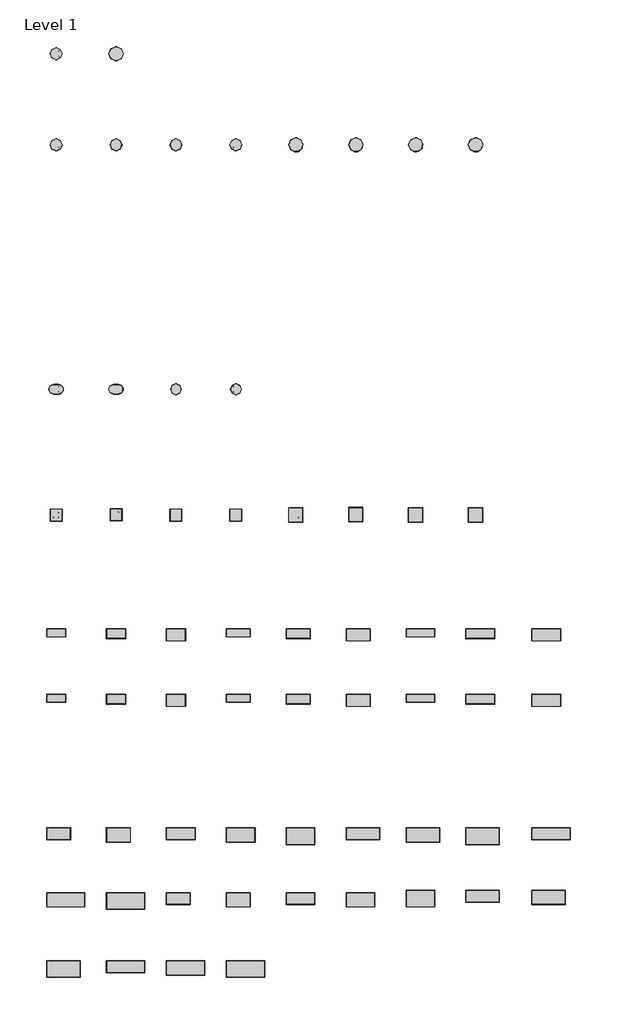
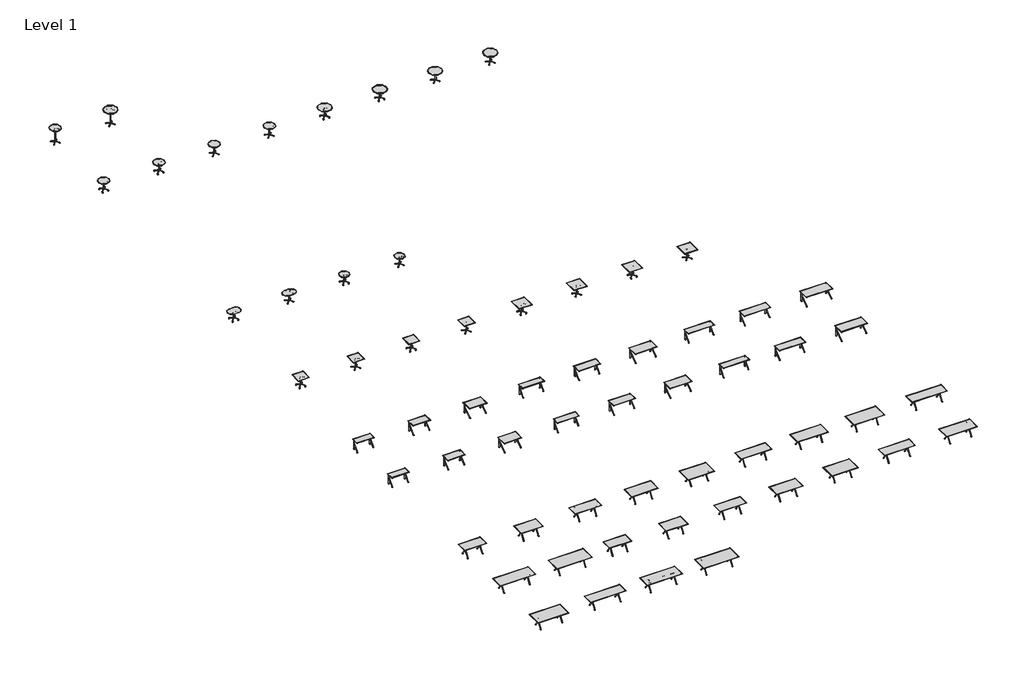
# One storey, incomplete: 62 furniture elements.
"""IFC4 building model written with IfcOpenShell, lengths in millimetres."""

from ifc_helpers import new_model, si_unit, origin, place, context, project, spatial, transform, mapped, element, save
from components import furniture_6d840f3d, furniture_4b4476a1, furniture_c636132f, furniture_0d1399a9, furniture_e3f77849, furniture_43bcfa1b, furniture_23439573, furniture_00ebde2c, furniture_e8179fcb, furniture_a29cdf1c, furniture_600607fc, furniture_6506d081, furniture_60187970, furniture_3e3b4661, furniture_688fecdd, furniture_44e23b2c, furniture_f732efc8, furniture_f3c16c70, furniture_112e565e, furniture_2d3e260a, furniture_408d4948, furniture_6a61a7a8, furniture_c7f1a0a6, furniture_7c50bf01, furniture_cbac11a1, furniture_f50cbc5f, furniture_f6d11dd5, furniture_b1c274ee, furniture_0b930614, furniture_6fb40dd8, furniture_1427e825, furniture_9557caa1, furniture_664d09f2, furniture_9438e511, furniture_6361e24f, furniture_384ca9b4, furniture_72fba591, furniture_e7cac80a, furniture_fa86c628, furniture_82742941, furniture_30dia_b329b6b0, furniture_30dia_caster_6a6dbd40, furniture_30dia_caster_169a5ec4, furniture_30dia_flip_top_caster_9c263363, furniture_30dia_flip_top_glide_9120c742, furniture_30dia_glide_76cbbe3d, furniture_30dia_glide_d7e59fd5, furniture_36dia_0370dd3c, furniture_36dia_caster_071b1864, furniture_36dia_flip_top_caster_c69cecfe, furniture_36dia_flip_top_glide_c7ab700b, furniture_36dia_glide_d5f281bf, round_caster_d703c492, round_glide_2c95bece

model = new_model("IFC4")

# Units and contexts
model_context = context("Model", 3, world=origin())
ifc_project = project(units=[si_unit("LENGTHUNIT", "METRE", prefix="MILLI")], contexts=[model_context])

# Site, building, storey
site = spatial("IfcSite", under=ifc_project)
building = spatial("IfcBuilding", under=site)
storey = spatial("IfcBuildingStorey", under=building, Name="Level 1", Elevation=0.0)

# Furniture
placement = place(None, origin())
furniture_shape = furniture_6d840f3d(model_context)
element("IfcFurniture", 1, ObjectType="Coalesse_AM_Table_Conference_Ballet_Rectangular_XBase : Folding - 72L x 30W", at=placement, inside=storey, context=model_context, shape_type="MappedRepresentation", body=[
    mapped(furniture_shape, transform((780869.7766429, -39696.6858647, 0.0), x_axis=(1.0, 0.0, 0.0), y_axis=(0.0, 1.0, 0.0), z_axis=(0.0, 0.0, 1.0))),
])
element("IfcFurniture", 2, ObjectType="Coalesse_AM_Table_Conference_Ballet_Rectangular_XBase : Non Folding - 72L x 30W", at=placement, inside=storey, context=model_context, shape_type="MappedRepresentation", body=[
    mapped(furniture_shape, transform((788489.7766429, -43811.4858647, 0.0), x_axis=(1.0, 0.0, 0.0), y_axis=(0.0, 1.0, 0.0), z_axis=(0.0, 0.0, 1.0))),
])
furniture_2_shape = furniture_4b4476a1(model_context)
element("IfcFurniture", 3, ObjectType="Coalesse_AM_Table_Conference_Ballet_Rectangular_XBase : Folding - 60L x 30W", at=placement, inside=storey, context=model_context, shape_type="MappedRepresentation", body=[
    mapped(furniture_2_shape, transform((773097.3766429, -39696.6858647, 0.0), x_axis=(1.0, 0.0, 0.0), y_axis=(0.0, 1.0, 0.0), z_axis=(0.0, 0.0, 1.0))),
])
furniture_3_shape = furniture_c636132f(model_context)
element("IfcFurniture", 4, ObjectType="Coalesse_AM_Table_Conference_Ballet_Rectangular_XBase : Folding - 84L x 30W", at=placement, inside=storey, context=model_context, shape_type="MappedRepresentation", body=[
    mapped(furniture_3_shape, transform((792452.1766429, -39696.6858647, 0.0), x_axis=(1.0, 0.0, 0.0), y_axis=(0.0, 1.0, 0.0), z_axis=(0.0, 0.0, 1.0))),
])
furniture_4_shape = furniture_0d1399a9(model_context)
element("IfcFurniture", 5, ObjectType="Coalesse_AM_Table_Conference_Ballet_Rectangular_XBase : Folding - 96L x 30W", at=placement, inside=storey, context=model_context, shape_type="MappedRepresentation", body=[
    mapped(furniture_4_shape, transform((804413.5754455, -39696.6858647, 0.0), x_axis=(1.0, 0.0, 0.0), y_axis=(0.0, 1.0, 0.0), z_axis=(0.0, 0.0, 1.0))),
])
element("IfcFurniture", 6, ObjectType="Coalesse_AM_Table_Conference_Ballet_Rectangular_XBase : Non Folding - 60L x 30W", at=placement, inside=storey, context=model_context, shape_type="MappedRepresentation", body=[
    mapped(furniture_2_shape, transform((780717.3766429, -43811.4858647, 0.0), x_axis=(1.0, 0.0, 0.0), y_axis=(0.0, 1.0, 0.0), z_axis=(0.0, 0.0, 1.0))),
])
element("IfcFurniture", 7, ObjectType="Coalesse_AM_Table_Conference_Ballet_Rectangular_XBase : Non Folding - 84L x 30W", at=placement, inside=storey, context=model_context, shape_type="MappedRepresentation", body=[
    mapped(furniture_3_shape, transform((800072.1766429, -43659.0858647, 0.0), x_axis=(1.0, 0.0, 0.0), y_axis=(0.0, 1.0, 0.0), z_axis=(0.0, 0.0, 1.0))),
])
element("IfcFurniture", 8, ObjectType="Coalesse_AM_Table_Conference_Ballet_Rectangular_XBase : Non Folding - 96L x 30W", at=placement, inside=storey, context=model_context, shape_type="MappedRepresentation", body=[
    mapped(furniture_4_shape, transform((777364.5766429, -48144.1119827, 0.0), x_axis=(1.0, 0.0, 0.0), y_axis=(0.0, 1.0, 0.0), z_axis=(0.0, 0.0, 1.0))),
])
furniture_5_shape = furniture_e3f77849(model_context)
element("IfcFurniture", 9, ObjectType="Coalesse_AM_Table_Conference_Ballet_Rectangular_XBase : Folding - 60L x 36W", at=placement, inside=storey, context=model_context, shape_type="MappedRepresentation", body=[
    mapped(furniture_5_shape, transform((776907.3766429, -39772.8858647, 0.0), x_axis=(1.0, 0.0, 0.0), y_axis=(0.0, 1.0, 0.0), z_axis=(0.0, 0.0, 1.0))),
])
furniture_6_shape = furniture_43bcfa1b(model_context)
element("IfcFurniture", 10, ObjectType="Coalesse_AM_Table_Conference_Ballet_Rectangular_XBase : Folding - 72L x 36W", at=placement, inside=storey, context=model_context, shape_type="MappedRepresentation", body=[
    mapped(furniture_6_shape, transform((784679.7766429, -39772.8858647, 0.0), x_axis=(1.0, 0.0, 0.0), y_axis=(0.0, 1.0, 0.0), z_axis=(0.0, 0.0, 1.0))),
])
furniture_7_shape = furniture_23439573(model_context)
element("IfcFurniture", 11, ObjectType="Coalesse_AM_Table_Conference_Ballet_Rectangular_XBase : Folding - 84L x 36W", at=placement, inside=storey, context=model_context, shape_type="MappedRepresentation", body=[
    mapped(furniture_7_shape, transform((796262.1766429, -39772.8858647, 0.0), x_axis=(1.0, 0.0, 0.0), y_axis=(0.0, 1.0, 0.0), z_axis=(0.0, 0.0, 1.0))),
])
furniture_8_shape = furniture_00ebde2c(model_context)
element("IfcFurniture", 12, ObjectType="Coalesse_AM_Table_Conference_Ballet_Rectangular_XBase : Folding - 96L x 36W", at=placement, inside=storey, context=model_context, shape_type="MappedRepresentation", body=[
    mapped(furniture_8_shape, transform((773554.5766429, -43887.6858647, 0.0), x_axis=(1.0, 0.0, 0.0), y_axis=(0.0, 1.0, 0.0), z_axis=(0.0, 0.0, 1.0))),
])
element("IfcFurniture", 13, ObjectType="Coalesse_AM_Table_Conference_Ballet_Rectangular_XBase : Non Folding - 60L x 36W", at=placement, inside=storey, context=model_context, shape_type="MappedRepresentation", body=[
    mapped(furniture_5_shape, transform((784527.3766429, -43887.6858647, 0.0), x_axis=(1.0, 0.0, 0.0), y_axis=(0.0, 1.0, 0.0), z_axis=(0.0, 0.0, 1.0))),
])
element("IfcFurniture", 14, ObjectType="Coalesse_AM_Table_Conference_Ballet_Rectangular_XBase : Non Folding - 72L x 36W", at=placement, inside=storey, context=model_context, shape_type="MappedRepresentation", body=[
    mapped(furniture_6_shape, transform((792299.7766429, -43887.6858647, 0.0), x_axis=(1.0, 0.0, 0.0), y_axis=(0.0, 1.0, 0.0), z_axis=(0.0, 0.0, 1.0))),
])
element("IfcFurniture", 15, ObjectType="Coalesse_AM_Table_Conference_Ballet_Rectangular_XBase : Non Folding - 84L x 36W", at=placement, inside=storey, context=model_context, shape_type="MappedRepresentation", body=[
    mapped(furniture_7_shape, transform((804261.1754455, -43735.2858647, 0.0), x_axis=(1.0, 0.0, 0.0), y_axis=(0.0, 1.0, 0.0), z_axis=(0.0, 0.0, 1.0))),
])
furniture_9_shape = furniture_e8179fcb(model_context)
element("IfcFurniture", 16, ObjectType="Coalesse_AM_Table_Conference_Ballet_Rectangular_XBase : Non Folding - 96L x 36W", at=placement, inside=storey, context=model_context, shape_type="MappedRepresentation", body=[
    mapped(furniture_9_shape, transform((781174.5766429, -48220.3119827, 0.0), x_axis=(1.0, 0.0, 0.0), y_axis=(0.0, 1.0, 0.0), z_axis=(0.0, 0.0, 1.0))),
])
furniture_10_shape = furniture_a29cdf1c(model_context)
element("IfcFurniture", 17, ObjectType="Coalesse_AM_Table_Conference_Ballet_Rectangular_XBase : Folding - 72L x 42W", at=placement, inside=storey, context=model_context, shape_type="MappedRepresentation", body=[
    mapped(furniture_10_shape, transform((788489.7766429, -39849.0858647, 0.0), x_axis=(1.0, 0.0, 0.0), y_axis=(0.0, 1.0, 0.0), z_axis=(0.0, 0.0, 1.0))),
])
furniture_11_shape = furniture_600607fc(model_context)
element("IfcFurniture", 18, ObjectType="Coalesse_AM_Table_Conference_Ballet_Rectangular_XBase : Folding - 84L x 42W", at=placement, inside=storey, context=model_context, shape_type="MappedRepresentation", body=[
    mapped(furniture_11_shape, transform((800072.1766429, -39849.0858647, 0.0), x_axis=(1.0, 0.0, 0.0), y_axis=(0.0, 1.0, 0.0), z_axis=(0.0, 0.0, 1.0))),
])
furniture_12_shape = furniture_6506d081(model_context)
element("IfcFurniture", 19, ObjectType="Coalesse_AM_Table_Conference_Ballet_Rectangular_XBase : Folding - 96L x 42W", at=placement, inside=storey, context=model_context, shape_type="MappedRepresentation", body=[
    mapped(furniture_12_shape, transform((777364.5766429, -43963.8858647, 0.0), x_axis=(1.0, 0.0, 0.0), y_axis=(0.0, 1.0, 0.0), z_axis=(0.0, 0.0, 1.0))),
])
element("IfcFurniture", 20, ObjectType="Coalesse_AM_Table_Conference_Ballet_Rectangular_XBase : Non Folding - 72L x 42W", at=placement, inside=storey, context=model_context, shape_type="MappedRepresentation", body=[
    mapped(furniture_10_shape, transform((796109.7766429, -43811.4858647, 0.0), x_axis=(1.0, 0.0, 0.0), y_axis=(0.0, 1.0, 0.0), z_axis=(0.0, 0.0, 1.0))),
])
element("IfcFurniture", 21, ObjectType="Coalesse_AM_Table_Conference_Ballet_Rectangular_XBase : Non Folding - 84L x 42W", at=placement, inside=storey, context=model_context, shape_type="MappedRepresentation", body=[
    mapped(furniture_11_shape, transform((773402.1766429, -48296.5119827, 0.0), x_axis=(1.0, 0.0, 0.0), y_axis=(0.0, 1.0, 0.0), z_axis=(0.0, 0.0, 1.0))),
])
element("IfcFurniture", 22, ObjectType="Coalesse_AM_Table_Conference_Ballet_Rectangular_XBase : Non Folding - 96L x 42W", at=placement, inside=storey, context=model_context, shape_type="MappedRepresentation", body=[
    mapped(furniture_12_shape, transform((784984.5766429, -48296.5119827, 0.0), x_axis=(1.0, 0.0, 0.0), y_axis=(0.0, 1.0, 0.0), z_axis=(0.0, 0.0, 1.0))),
])
furniture_13_shape = furniture_60187970(model_context)
element("IfcFurniture", 23, ObjectType="Coalesse_AM_Table_Conference_Ballet_Side : Racetrack - Caster", at=placement, inside=storey, context=model_context, shape_type="MappedRepresentation", body=[
    mapped(furniture_13_shape, transform((772944.9766429, -11426.4858647, 0.0), x_axis=(1.0, 0.0, 0.0), y_axis=(0.0, 1.0, 0.0), z_axis=(0.0, 0.0, 1.0))),
])
furniture_14_shape = furniture_3e3b4661(model_context)
element("IfcFurniture", 24, ObjectType="Coalesse_AM_Table_Conference_Ballet_Side : Racetrack - Glide", at=placement, inside=storey, context=model_context, shape_type="MappedRepresentation", body=[
    mapped(furniture_14_shape, transform((776754.9766429, -11426.4858647, 0.0), x_axis=(1.0, 0.0, 0.0), y_axis=(0.0, 1.0, 0.0), z_axis=(0.0, 0.0, 1.0))),
])
furniture_15_shape = furniture_688fecdd(model_context)
element("IfcFurniture", 25, ObjectType="Coalesse_AM_Table_Conference_Ballet_Square : 36L x 36W - Fixed/Caster", at=placement, inside=storey, context=model_context, shape_type="MappedRepresentation", body=[
    mapped(furniture_15_shape, transform((788184.9766429, -19427.4858647, 0.0), x_axis=(1.0, 0.0, 0.0), y_axis=(0.0, 1.0, 0.0), z_axis=(0.0, 0.0, 1.0))),
])
furniture_16_shape = furniture_44e23b2c(model_context)
element("IfcFurniture", 26, ObjectType="Coalesse_AM_Table_Conference_Ballet_Square : 30L x 30W - Fixed/Caster", at=placement, inside=storey, context=model_context, shape_type="MappedRepresentation", body=[
    mapped(furniture_16_shape, transform((772944.9766429, -19427.4858647, 0.0), x_axis=(1.0, 0.0, 0.0), y_axis=(0.0, 1.0, 0.0), z_axis=(0.0, 0.0, 1.0))),
])
furniture_17_shape = furniture_f732efc8(model_context)
element("IfcFurniture", 27, ObjectType="Coalesse_AM_Table_Conference_Ballet_Square : 36L x 36W - Flip/Caster", at=placement, inside=storey, context=model_context, shape_type="MappedRepresentation", body=[
    mapped(furniture_17_shape, transform((795804.9766429, -19427.4858647, 0.0), x_axis=(1.0, 0.0, 0.0), y_axis=(0.0, 1.0, 0.0), z_axis=(0.0, 0.0, 1.0))),
])
furniture_18_shape = furniture_f3c16c70(model_context)
element("IfcFurniture", 28, ObjectType="Coalesse_AM_Table_Conference_Ballet_Square : 30L x 30W - Flip/Caster", at=placement, inside=storey, context=model_context, shape_type="MappedRepresentation", body=[
    mapped(furniture_18_shape, transform((780564.9766429, -19427.4858647, 0.0), x_axis=(1.0, 0.0, 0.0), y_axis=(0.0, 1.0, 0.0), z_axis=(0.0, 0.0, 1.0))),
])
furniture_19_shape = furniture_112e565e(model_context)
element("IfcFurniture", 29, ObjectType="Coalesse_AM_Table_Conference_Ballet_Square : 30L x 30W - Fixed/Glide", at=placement, inside=storey, context=model_context, shape_type="MappedRepresentation", body=[
    mapped(furniture_19_shape, transform((776754.9766429, -19402.0858889, 0.0), x_axis=(1.0, 0.0, 0.0), y_axis=(0.0, 1.0, 0.0), z_axis=(0.0, 0.0, 1.0))),
])
furniture_20_shape = furniture_2d3e260a(model_context)
element("IfcFurniture", 30, ObjectType="Coalesse_AM_Table_Conference_Ballet_Square : 30L x 30W - Flip/Glide", at=placement, inside=storey, context=model_context, shape_type="MappedRepresentation", body=[
    mapped(furniture_20_shape, transform((784374.9766429, -19427.4858647, 0.0), x_axis=(1.0, 0.0, 0.0), y_axis=(0.0, 1.0, 0.0), z_axis=(0.0, 0.0, 1.0))),
])
furniture_21_shape = furniture_408d4948(model_context)
element("IfcFurniture", 31, ObjectType="Coalesse_AM_Table_Conference_Ballet_Square : 36L x 36W - Fixed/Glide", at=placement, inside=storey, context=model_context, shape_type="MappedRepresentation", body=[
    mapped(furniture_21_shape, transform((791994.9766429, -19402.0858889, 0.0), x_axis=(1.0, 0.0, 0.0), y_axis=(0.0, 1.0, 0.0), z_axis=(0.0, 0.0, 1.0))),
])
furniture_22_shape = furniture_6a61a7a8(model_context)
element("IfcFurniture", 32, ObjectType="Coalesse_AM_Table_Conference_Ballet_Square : 36L x 36W - Flip/Glide", at=placement, inside=storey, context=model_context, shape_type="MappedRepresentation", body=[
    mapped(furniture_22_shape, transform((799614.9766429, -19427.4858647, 0.0), x_axis=(1.0, 0.0, 0.0), y_axis=(0.0, 1.0, 0.0), z_axis=(0.0, 0.0, 1.0))),
])
furniture_23_shape = furniture_c7f1a0a6(model_context)
element("IfcFurniture", 33, ObjectType="Coalesse_AM_Table_Conference_Ballet_Rectangular_KBase : Non Folding - 72L x 30W", at=placement, inside=storey, context=model_context, shape_type="MappedRepresentation", body=[
    mapped(furniture_23_shape, transform((804108.7754455, -31214.4598203, 0.0), x_axis=(1.0, 0.0, 0.0), y_axis=(0.0, 1.0, 0.0), z_axis=(0.0, 0.0, 1.0))),
])
furniture_24_shape = furniture_7c50bf01(model_context)
element("IfcFurniture", 34, ObjectType="Coalesse_AM_Table_Conference_Ballet_Rectangular_KBase : Non Folding - 72L x 20W", at=placement, inside=storey, context=model_context, shape_type="MappedRepresentation", body=[
    mapped(furniture_24_shape, transform((796109.7766429, -31087.4598203, 0.0), x_axis=(1.0, 0.0, 0.0), y_axis=(0.0, 1.0, 0.0), z_axis=(0.0, 0.0, 1.0))),
])
furniture_25_shape = furniture_cbac11a1(model_context)
element("IfcFurniture", 35, ObjectType="Coalesse_AM_Table_Conference_Ballet_Rectangular_KBase : Non Folding - 60L x 24W", at=placement, inside=storey, context=model_context, shape_type="MappedRepresentation", body=[
    mapped(furniture_25_shape, transform((788337.3766429, -31138.2598203, 0.0), x_axis=(1.0, 0.0, 0.0), y_axis=(0.0, 1.0, 0.0), z_axis=(0.0, 0.0, 1.0))),
])
furniture_26_shape = furniture_f50cbc5f(model_context)
element("IfcFurniture", 36, ObjectType="Coalesse_AM_Table_Conference_Ballet_Rectangular_KBase : Non Folding - 48L x 30W", at=placement, inside=storey, context=model_context, shape_type="MappedRepresentation", body=[
    mapped(furniture_26_shape, transform((780564.9766429, -31214.4598203, 0.0), x_axis=(1.0, 0.0, 0.0), y_axis=(0.0, 1.0, 0.0), z_axis=(0.0, 0.0, 1.0))),
])
furniture_27_shape = furniture_f6d11dd5(model_context)
element("IfcFurniture", 37, ObjectType="Coalesse_AM_Table_Conference_Ballet_Rectangular_KBase : Non Folding - 48L x 20W", at=placement, inside=storey, context=model_context, shape_type="MappedRepresentation", body=[
    mapped(furniture_27_shape, transform((772944.9766429, -31087.4598203, 0.0), x_axis=(1.0, 0.0, 0.0), y_axis=(0.0, 1.0, 0.0), z_axis=(0.0, 0.0, 1.0))),
])
furniture_28_shape = furniture_b1c274ee(model_context)
element("IfcFurniture", 38, ObjectType="Coalesse_AM_Table_Conference_Ballet_Rectangular_KBase : Folding - 72L x 24W", at=placement, inside=storey, context=model_context, shape_type="MappedRepresentation", body=[
    mapped(furniture_28_shape, transform((799919.7766429, -26971.2858647, 0.0), x_axis=(1.0, 0.0, 0.0), y_axis=(0.0, 1.0, 0.0), z_axis=(0.0, 0.0, 1.0))),
])
furniture_29_shape = furniture_0b930614(model_context)
element("IfcFurniture", 39, ObjectType="Coalesse_AM_Table_Conference_Ballet_Rectangular_KBase : Folding - 60L x 30W", at=placement, inside=storey, context=model_context, shape_type="MappedRepresentation", body=[
    mapped(furniture_29_shape, transform((792147.3766429, -27047.4858647, 0.0), x_axis=(1.0, 0.0, 0.0), y_axis=(0.0, 1.0, 0.0), z_axis=(0.0, 0.0, 1.0))),
])
furniture_30_shape = furniture_6fb40dd8(model_context)
element("IfcFurniture", 40, ObjectType="Coalesse_AM_Table_Conference_Ballet_Rectangular_KBase : Folding - 60L x 20W", at=placement, inside=storey, context=model_context, shape_type="MappedRepresentation", body=[
    mapped(furniture_30_shape, transform((784527.3766429, -26920.4858647, 0.0), x_axis=(1.0, 0.0, 0.0), y_axis=(0.0, 1.0, 0.0), z_axis=(0.0, 0.0, 1.0))),
])
furniture_31_shape = furniture_1427e825(model_context)
element("IfcFurniture", 41, ObjectType="Coalesse_AM_Table_Conference_Ballet_Rectangular_KBase : Folding - 48L x 24W", at=placement, inside=storey, context=model_context, shape_type="MappedRepresentation", body=[
    mapped(furniture_31_shape, transform((776754.9766429, -26971.2858647, 0.0), x_axis=(1.0, 0.0, 0.0), y_axis=(0.0, 1.0, 0.0), z_axis=(0.0, 0.0, 1.0))),
])
furniture_32_shape = furniture_9557caa1(model_context)
element("IfcFurniture", 42, ObjectType="Coalesse_AM_Table_Conference_Ballet_Rectangular_KBase : Folding - 48L x 20W", at=placement, inside=storey, context=model_context, shape_type="MappedRepresentation", body=[
    mapped(furniture_32_shape, transform((772944.9766429, -26920.4858647, 0.0), x_axis=(1.0, 0.0, 0.0), y_axis=(0.0, 1.0, 0.0), z_axis=(0.0, 0.0, 1.0))),
])
furniture_33_shape = furniture_664d09f2(model_context)
element("IfcFurniture", 43, ObjectType="Coalesse_AM_Table_Conference_Ballet_Rectangular_KBase : Folding - 48L x 30W", at=placement, inside=storey, context=model_context, shape_type="MappedRepresentation", body=[
    mapped(furniture_33_shape, transform((780564.9766429, -27047.4858647, 0.0), x_axis=(1.0, 0.0, 0.0), y_axis=(0.0, 1.0, 0.0), z_axis=(0.0, 0.0, 1.0))),
])
furniture_34_shape = furniture_9438e511(model_context)
element("IfcFurniture", 44, ObjectType="Coalesse_AM_Table_Conference_Ballet_Rectangular_KBase : Folding - 60L x 24W", at=placement, inside=storey, context=model_context, shape_type="MappedRepresentation", body=[
    mapped(furniture_34_shape, transform((788337.3766429, -26971.2858647, 0.0), x_axis=(1.0, 0.0, 0.0), y_axis=(0.0, 1.0, 0.0), z_axis=(0.0, 0.0, 1.0))),
])
furniture_35_shape = furniture_6361e24f(model_context)
element("IfcFurniture", 45, ObjectType="Coalesse_AM_Table_Conference_Ballet_Rectangular_KBase : Folding - 72L x 20W", at=placement, inside=storey, context=model_context, shape_type="MappedRepresentation", body=[
    mapped(furniture_35_shape, transform((796109.7766429, -26920.4858647, 0.0), x_axis=(1.0, 0.0, 0.0), y_axis=(0.0, 1.0, 0.0), z_axis=(0.0, 0.0, 1.0))),
])
furniture_36_shape = furniture_384ca9b4(model_context)
element("IfcFurniture", 46, ObjectType="Coalesse_AM_Table_Conference_Ballet_Rectangular_KBase : Folding - 72L x 30W", at=placement, inside=storey, context=model_context, shape_type="MappedRepresentation", body=[
    mapped(furniture_36_shape, transform((804108.7754455, -27047.4858647, 0.0), x_axis=(1.0, 0.0, 0.0), y_axis=(0.0, 1.0, 0.0), z_axis=(0.0, 0.0, 1.0))),
])
furniture_37_shape = furniture_72fba591(model_context)
element("IfcFurniture", 47, ObjectType="Coalesse_AM_Table_Conference_Ballet_Rectangular_KBase : Non Folding - 48L x 24W", at=placement, inside=storey, context=model_context, shape_type="MappedRepresentation", body=[
    mapped(furniture_37_shape, transform((776754.9766429, -31138.2598203, 0.0), x_axis=(1.0, 0.0, 0.0), y_axis=(0.0, 1.0, 0.0), z_axis=(0.0, 0.0, 1.0))),
])
furniture_38_shape = furniture_e7cac80a(model_context)
element("IfcFurniture", 48, ObjectType="Coalesse_AM_Table_Conference_Ballet_Rectangular_KBase : Non Folding - 60L x 20W", at=placement, inside=storey, context=model_context, shape_type="MappedRepresentation", body=[
    mapped(furniture_38_shape, transform((784527.3766429, -31087.4598203, 0.0), x_axis=(1.0, 0.0, 0.0), y_axis=(0.0, 1.0, 0.0), z_axis=(0.0, 0.0, 1.0))),
])
furniture_39_shape = furniture_fa86c628(model_context)
element("IfcFurniture", 49, ObjectType="Coalesse_AM_Table_Conference_Ballet_Rectangular_KBase : Non Folding - 60L x 30W", at=placement, inside=storey, context=model_context, shape_type="MappedRepresentation", body=[
    mapped(furniture_39_shape, transform((792147.3766429, -31214.4598203, 0.0), x_axis=(1.0, 0.0, 0.0), y_axis=(0.0, 1.0, 0.0), z_axis=(0.0, 0.0, 1.0))),
])
furniture_40_shape = furniture_82742941(model_context)
element("IfcFurniture", 50, ObjectType="Coalesse_AM_Table_Conference_Ballet_Rectangular_KBase : Non Folding - 72L x 24W", at=placement, inside=storey, context=model_context, shape_type="MappedRepresentation", body=[
    mapped(furniture_40_shape, transform((799919.7766429, -31138.2598203, 0.0), x_axis=(1.0, 0.0, 0.0), y_axis=(0.0, 1.0, 0.0), z_axis=(0.0, 0.0, 1.0))),
])
furniture_30dia_shape = furniture_30dia_b329b6b0(model_context)
element("IfcFurniture", 51, ObjectType="Coalesse_AM_Table_Conference_Ballet_Cafe : 30Dia", at=placement, inside=storey, context=model_context, shape_type="MappedRepresentation", body=[
    mapped(furniture_30dia_shape, transform((772944.9766429, 9909.5141353, 0.0), x_axis=(1.0, 0.0, 0.0), y_axis=(0.0, 1.0, 0.0), z_axis=(0.0, 0.0, 1.0))),
])
furniture_30dia_caster_shape = furniture_30dia_caster_6a6dbd40(model_context)
furniture_30dia_caster_2_shape = furniture_30dia_caster_169a5ec4(model_context)
element("IfcFurniture", 52, ObjectType="Coalesse_AM_Table_Conference_Ballet_Table_Round : 30Dia - Caster", at=placement, inside=storey, context=model_context, shape_type="MappedRepresentation", body=[
    mapped(furniture_30dia_caster_shape, transform((772944.9766429, 4118.3141353, 0.0), x_axis=(1.0, 0.0, 0.0), y_axis=(0.0, 1.0, 0.0), z_axis=(0.0, 0.0, 1.0))),
    mapped(furniture_30dia_caster_2_shape, transform((772944.9766429, 4118.3141353, 0.0), x_axis=(1.0, 0.0, 0.0), y_axis=(0.0, 1.0, 0.0), z_axis=(0.0, 0.0, 1.0))),
])
furniture_30dia_flip_top_caster_shape = furniture_30dia_flip_top_caster_9c263363(model_context)
element("IfcFurniture", 53, ObjectType="Coalesse_AM_Table_Conference_Ballet_Table_Round : 30Dia - Flip Top/Caster", at=placement, inside=storey, context=model_context, shape_type="MappedRepresentation", body=[
    mapped(furniture_30dia_flip_top_caster_shape, transform((776754.9766429, 4118.3141353, 0.0), x_axis=(1.0, 0.0, 0.0), y_axis=(0.0, 1.0, 0.0), z_axis=(0.0, 0.0, 1.0))),
])
furniture_30dia_flip_top_glide_shape = furniture_30dia_flip_top_glide_9120c742(model_context)
element("IfcFurniture", 54, ObjectType="Coalesse_AM_Table_Conference_Ballet_Table_Round : 30Dia - Flip Top/Glide", at=placement, inside=storey, context=model_context, shape_type="MappedRepresentation", body=[
    mapped(furniture_30dia_flip_top_glide_shape, transform((780564.9766429, 4118.3141353, 0.0), x_axis=(1.0, 0.0, 0.0), y_axis=(0.0, 1.0, 0.0), z_axis=(0.0, 0.0, 1.0))),
])
furniture_30dia_glide_shape = furniture_30dia_glide_76cbbe3d(model_context)
furniture_30dia_glide_2_shape = furniture_30dia_glide_d7e59fd5(model_context)
element("IfcFurniture", 55, ObjectType="Coalesse_AM_Table_Conference_Ballet_Table_Round : 30Dia - Glide", at=placement, inside=storey, context=model_context, shape_type="MappedRepresentation", body=[
    mapped(furniture_30dia_glide_shape, transform((784374.9766429, 4118.3141353, 0.0), x_axis=(1.0, 0.0, 0.0), y_axis=(0.0, 1.0, 0.0), z_axis=(0.0, 0.0, 1.0))),
    mapped(furniture_30dia_glide_2_shape, transform((784374.9766429, 4118.3141353, 0.0), x_axis=(1.0, 0.0, 0.0), y_axis=(0.0, 1.0, 0.0), z_axis=(0.0, 0.0, 1.0))),
])
furniture_36dia_shape = furniture_36dia_0370dd3c(model_context)
element("IfcFurniture", 56, ObjectType="Coalesse_AM_Table_Conference_Ballet_Cafe : 36Dia", at=placement, inside=storey, context=model_context, shape_type="MappedRepresentation", body=[
    mapped(furniture_36dia_shape, transform((776754.9766429, 9909.5141353, 0.0), x_axis=(1.0, 0.0, 0.0), y_axis=(0.0, 1.0, 0.0), z_axis=(0.0, 0.0, 1.0))),
])
furniture_36dia_caster_shape = furniture_36dia_caster_071b1864(model_context)
element("IfcFurniture", 57, ObjectType="Coalesse_AM_Table_Conference_Ballet_Table_Round : 36Dia - Caster", at=placement, inside=storey, context=model_context, shape_type="MappedRepresentation", body=[
    mapped(furniture_30dia_caster_shape, transform((788184.9766429, 4118.3141353, 0.0), x_axis=(1.0, 0.0, 0.0), y_axis=(0.0, 1.0, 0.0), z_axis=(0.0, 0.0, 1.0))),
    mapped(furniture_36dia_caster_shape, transform((788184.9766429, 4118.3141353, 0.0), x_axis=(1.0, 0.0, 0.0), y_axis=(0.0, 1.0, 0.0), z_axis=(0.0, 0.0, 1.0))),
])
furniture_36dia_flip_top_caster_shape = furniture_36dia_flip_top_caster_c69cecfe(model_context)
element("IfcFurniture", 58, ObjectType="Coalesse_AM_Table_Conference_Ballet_Table_Round : 36Dia - Flip Top/Caster", at=placement, inside=storey, context=model_context, shape_type="MappedRepresentation", body=[
    mapped(furniture_36dia_flip_top_caster_shape, transform((791994.9766429, 4118.3141353, 0.0), x_axis=(1.0, 0.0, 0.0), y_axis=(0.0, 1.0, 0.0), z_axis=(0.0, 0.0, 1.0))),
])
furniture_36dia_flip_top_glide_shape = furniture_36dia_flip_top_glide_c7ab700b(model_context)
element("IfcFurniture", 59, ObjectType="Coalesse_AM_Table_Conference_Ballet_Table_Round : 36Dia - Flip Top/Glide", at=placement, inside=storey, context=model_context, shape_type="MappedRepresentation", body=[
    mapped(furniture_36dia_flip_top_glide_shape, transform((795804.9766429, 4118.3141353, 0.0), x_axis=(1.0, 0.0, 0.0), y_axis=(0.0, 1.0, 0.0), z_axis=(0.0, 0.0, 1.0))),
])
furniture_36dia_glide_shape = furniture_36dia_glide_d5f281bf(model_context)
element("IfcFurniture", 60, ObjectType="Coalesse_AM_Table_Conference_Ballet_Table_Round : 36Dia - Glide", at=placement, inside=storey, context=model_context, shape_type="MappedRepresentation", body=[
    mapped(furniture_30dia_glide_shape, transform((799614.9766429, 4118.3141353, 0.0), x_axis=(1.0, 0.0, 0.0), y_axis=(0.0, 1.0, 0.0), z_axis=(0.0, 0.0, 1.0))),
    mapped(furniture_36dia_glide_shape, transform((799614.9766429, 4118.3141353, 0.0), x_axis=(1.0, 0.0, 0.0), y_axis=(0.0, 1.0, 0.0), z_axis=(0.0, 0.0, 1.0))),
])
round_caster_shape = round_caster_d703c492(model_context)
element("IfcFurniture", 61, ObjectType="Coalesse_AM_Table_Conference_Ballet_Side : Round - Caster", at=placement, inside=storey, context=model_context, shape_type="MappedRepresentation", body=[
    mapped(round_caster_shape, transform((780564.9766429, -11426.4858647, 0.0), x_axis=(1.0, 0.0, 0.0), y_axis=(0.0, 1.0, 0.0), z_axis=(0.0, 0.0, 1.0))),
])
round_glide_shape = round_glide_2c95bece(model_context)
element("IfcFurniture", 62, ObjectType="Coalesse_AM_Table_Conference_Ballet_Side : Round - Glide", at=placement, inside=storey, context=model_context, shape_type="MappedRepresentation", body=[
    mapped(round_glide_shape, transform((784374.9766429, -11426.4858647, 0.0), x_axis=(1.0, 0.0, 0.0), y_axis=(0.0, 1.0, 0.0), z_axis=(0.0, 0.0, 1.0))),
])

save(model, "model.ifc")
